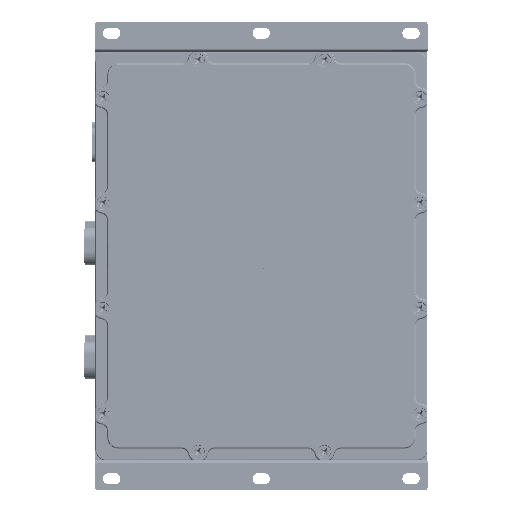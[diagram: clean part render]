
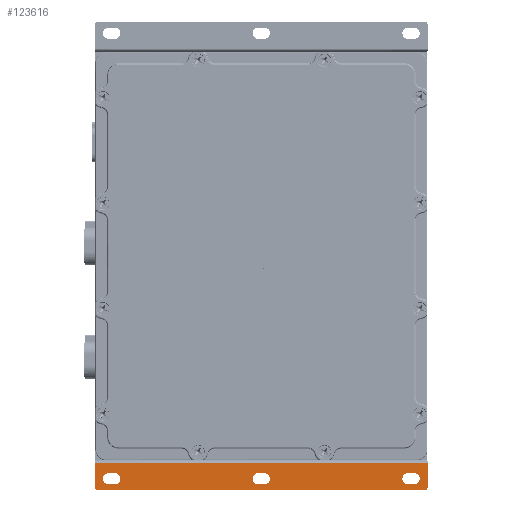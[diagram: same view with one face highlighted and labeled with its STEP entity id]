
A CAD part, front view. The second image highlights one B-rep face of the part: STEP entity #123616.
In plain terms, the highlighted planar face has unit normal (0, -1, 0).
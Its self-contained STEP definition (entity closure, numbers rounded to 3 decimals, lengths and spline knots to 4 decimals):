
#3134=ELLIPSE('',#136374,0.06,0.06);
#3139=ELLIPSE('',#136381,0.06,0.06);
#3288=FACE_BOUND('',#22727,.T.);
#3289=FACE_BOUND('',#22728,.T.);
#3290=FACE_BOUND('',#22729,.T.);
#8800=PLANE('',#136380);
#14818=FACE_OUTER_BOUND('',#22726,.T.);
#22726=EDGE_LOOP('',(#100651,#100652,#100653,#100654,#100655,#100656));
#22727=EDGE_LOOP('',(#100657,#100658,#100659,#100660));
#22728=EDGE_LOOP('',(#100661,#100662,#100663,#100664));
#22729=EDGE_LOOP('',(#100665,#100666,#100667,#100668));
#30551=LINE('',#237607,#38555);
#30555=LINE('',#237617,#38559);
#30567=LINE('',#237655,#38571);
#30571=LINE('',#237665,#38575);
#30583=LINE('',#237703,#38587);
#30587=LINE('',#237713,#38591);
#30598=LINE('',#237749,#38602);
#30609=LINE('',#237820,#38613);
#30610=LINE('',#237824,#38614);
#30611=LINE('',#237825,#38615);
#38555=VECTOR('',#164580,0.3937);
#38559=VECTOR('',#164592,0.3937);
#38571=VECTOR('',#164628,0.3937);
#38575=VECTOR('',#164640,0.3937);
#38587=VECTOR('',#164676,0.3937);
#38591=VECTOR('',#164688,0.3937);
#38602=VECTOR('',#164723,0.3937);
#38613=VECTOR('',#164744,0.3937);
#38614=VECTOR('',#164747,0.3937);
#38615=VECTOR('',#164748,0.3937);
#46047=CIRCLE('',#136326,0.135);
#46049=CIRCLE('',#136330,0.135);
#46055=CIRCLE('',#136342,0.135);
#46057=CIRCLE('',#136346,0.135);
#46063=CIRCLE('',#136358,0.135);
#46065=CIRCLE('',#136362,0.135);
#54915=VERTEX_POINT('',#237598);
#54916=VERTEX_POINT('',#237600);
#54918=VERTEX_POINT('',#237606);
#54920=VERTEX_POINT('',#237612);
#54931=VERTEX_POINT('',#237646);
#54932=VERTEX_POINT('',#237648);
#54934=VERTEX_POINT('',#237654);
#54936=VERTEX_POINT('',#237660);
#54947=VERTEX_POINT('',#237694);
#54948=VERTEX_POINT('',#237696);
#54950=VERTEX_POINT('',#237702);
#54952=VERTEX_POINT('',#237708);
#54963=VERTEX_POINT('',#237742);
#54964=VERTEX_POINT('',#237744);
#54965=VERTEX_POINT('',#237748);
#54980=VERTEX_POINT('',#237819);
#54981=VERTEX_POINT('',#237821);
#54982=VERTEX_POINT('',#237823);
#70811=EDGE_CURVE('',#54916,#54915,#46047,.T.);
#70814=EDGE_CURVE('',#54918,#54916,#30551,.T.);
#70817=EDGE_CURVE('',#54920,#54918,#46049,.T.);
#70820=EDGE_CURVE('',#54915,#54920,#30555,.T.);
#70835=EDGE_CURVE('',#54932,#54931,#46055,.T.);
#70838=EDGE_CURVE('',#54934,#54932,#30567,.T.);
#70841=EDGE_CURVE('',#54936,#54934,#46057,.T.);
#70844=EDGE_CURVE('',#54931,#54936,#30571,.T.);
#70859=EDGE_CURVE('',#54948,#54947,#46063,.T.);
#70862=EDGE_CURVE('',#54950,#54948,#30583,.T.);
#70865=EDGE_CURVE('',#54952,#54950,#46065,.T.);
#70868=EDGE_CURVE('',#54947,#54952,#30587,.T.);
#70883=EDGE_CURVE('',#54963,#54964,#3134,.T.);
#70885=EDGE_CURVE('',#54965,#54964,#30598,.T.);
#70904=EDGE_CURVE('',#54980,#54963,#30609,.T.);
#70905=EDGE_CURVE('',#54981,#54980,#3139,.T.);
#70906=EDGE_CURVE('',#54981,#54982,#30610,.T.);
#70907=EDGE_CURVE('',#54965,#54982,#30611,.T.);
#100651=ORIENTED_EDGE('',*,*,#70883,.F.);
#100652=ORIENTED_EDGE('',*,*,#70904,.F.);
#100653=ORIENTED_EDGE('',*,*,#70905,.F.);
#100654=ORIENTED_EDGE('',*,*,#70906,.T.);
#100655=ORIENTED_EDGE('',*,*,#70907,.F.);
#100656=ORIENTED_EDGE('',*,*,#70885,.T.);
#100657=ORIENTED_EDGE('',*,*,#70817,.T.);
#100658=ORIENTED_EDGE('',*,*,#70814,.T.);
#100659=ORIENTED_EDGE('',*,*,#70811,.T.);
#100660=ORIENTED_EDGE('',*,*,#70820,.T.);
#100661=ORIENTED_EDGE('',*,*,#70841,.T.);
#100662=ORIENTED_EDGE('',*,*,#70838,.T.);
#100663=ORIENTED_EDGE('',*,*,#70835,.T.);
#100664=ORIENTED_EDGE('',*,*,#70844,.T.);
#100665=ORIENTED_EDGE('',*,*,#70865,.T.);
#100666=ORIENTED_EDGE('',*,*,#70862,.T.);
#100667=ORIENTED_EDGE('',*,*,#70859,.T.);
#100668=ORIENTED_EDGE('',*,*,#70868,.T.);
#123616=ADVANCED_FACE('',(#14818,#3288,#3289,#3290),#8800,.F.);
#136326=AXIS2_PLACEMENT_3D('',#237601,#164574,#164575);
#136330=AXIS2_PLACEMENT_3D('',#237613,#164586,#164587);
#136342=AXIS2_PLACEMENT_3D('',#237649,#164622,#164623);
#136346=AXIS2_PLACEMENT_3D('',#237661,#164634,#164635);
#136358=AXIS2_PLACEMENT_3D('',#237697,#164670,#164671);
#136362=AXIS2_PLACEMENT_3D('',#237709,#164682,#164683);
#136374=AXIS2_PLACEMENT_3D('',#237745,#164718,#164719);
#136380=AXIS2_PLACEMENT_3D('',#237818,#164742,#164743);
#136381=AXIS2_PLACEMENT_3D('',#237822,#164745,#164746);
#164574=DIRECTION('center_axis',(0.,1.,0.));
#164575=DIRECTION('ref_axis',(0.,0.,-1.));
#164580=DIRECTION('',(1.,0.,0.));
#164586=DIRECTION('center_axis',(0.,1.,0.));
#164587=DIRECTION('ref_axis',(0.,0.,1.));
#164592=DIRECTION('',(-1.,0.,0.));
#164622=DIRECTION('center_axis',(0.,1.,0.));
#164623=DIRECTION('ref_axis',(0.,0.,-1.));
#164628=DIRECTION('',(1.,0.,0.));
#164634=DIRECTION('center_axis',(0.,1.,0.));
#164635=DIRECTION('ref_axis',(0.,0.,1.));
#164640=DIRECTION('',(-1.,0.,0.));
#164670=DIRECTION('center_axis',(0.,1.,0.));
#164671=DIRECTION('ref_axis',(0.,0.,-1.));
#164676=DIRECTION('',(1.,0.,0.));
#164682=DIRECTION('center_axis',(0.,1.,0.));
#164683=DIRECTION('ref_axis',(0.,0.,1.));
#164688=DIRECTION('',(-1.,0.,0.));
#164718=DIRECTION('center_axis',(0.,1.,0.));
#164719=DIRECTION('ref_axis',(-0.894,0.,-0.447));
#164723=DIRECTION('',(0.,0.,-1.));
#164742=DIRECTION('center_axis',(0.,1.,0.));
#164743=DIRECTION('ref_axis',(0.,0.,1.));
#164744=DIRECTION('',(-1.,0.,0.));
#164745=DIRECTION('center_axis',(0.,1.,0.));
#164746=DIRECTION('ref_axis',(0.894,0.,-0.447));
#164747=DIRECTION('',(0.,0.,1.));
#164748=DIRECTION('',(1.,0.,0.));
#237598=CARTESIAN_POINT('',(-3.48,-0.374,-5.4172));
#237600=CARTESIAN_POINT('',(-3.48,-0.374,-5.1472));
#237601=CARTESIAN_POINT('Origin',(-3.48,-0.374,-5.2822));
#237606=CARTESIAN_POINT('',(-3.62,-0.374,-5.1472));
#237607=CARTESIAN_POINT('',(-1.81,-0.374,-5.1472));
#237612=CARTESIAN_POINT('',(-3.62,-0.374,-5.4172));
#237613=CARTESIAN_POINT('Origin',(-3.62,-0.374,-5.2822));
#237617=CARTESIAN_POINT('',(-1.74,-0.374,-5.4172));
#237646=CARTESIAN_POINT('',(3.62,-0.374,-5.4172));
#237648=CARTESIAN_POINT('',(3.62,-0.374,-5.1472));
#237649=CARTESIAN_POINT('Origin',(3.62,-0.374,-5.2822));
#237654=CARTESIAN_POINT('',(3.48,-0.374,-5.1472));
#237655=CARTESIAN_POINT('',(1.74,-0.374,-5.1472));
#237660=CARTESIAN_POINT('',(3.48,-0.374,-5.4172));
#237661=CARTESIAN_POINT('Origin',(3.48,-0.374,-5.2822));
#237665=CARTESIAN_POINT('',(1.81,-0.374,-5.4172));
#237694=CARTESIAN_POINT('',(0.07,-0.374,-5.4172));
#237696=CARTESIAN_POINT('',(0.07,-0.374,-5.1472));
#237697=CARTESIAN_POINT('Origin',(0.07,-0.374,
-5.2822));
#237702=CARTESIAN_POINT('',(-0.07,-0.374,-5.1472));
#237703=CARTESIAN_POINT('',(-0.035,-0.374,-5.1472));
#237708=CARTESIAN_POINT('',(-0.07,-0.374,-5.4172));
#237709=CARTESIAN_POINT('Origin',(-0.07,-0.374,
-5.2822));
#237713=CARTESIAN_POINT('',(0.035,-0.374,-5.4172));
#237742=CARTESIAN_POINT('',(-3.8831,-0.374,-5.5486));
#237744=CARTESIAN_POINT('',(-3.9431,-0.374,-5.4886));
#237745=CARTESIAN_POINT('Origin',(-3.883,-0.374,
-5.4886));
#237748=CARTESIAN_POINT('',(-3.9431,-0.374,-4.9176));
#237749=CARTESIAN_POINT('',(-3.9431,-0.374,-2.7743));
#237818=CARTESIAN_POINT('Origin',(0.,-0.374,-5.5486));
#237819=CARTESIAN_POINT('',(3.8831,-0.374,-5.5486));
#237820=CARTESIAN_POINT('',(0.,-0.374,-5.5486));
#237821=CARTESIAN_POINT('',(3.9431,-0.374,-5.4886));
#237822=CARTESIAN_POINT('Origin',(3.883,-0.374,-5.4886));
#237823=CARTESIAN_POINT('',(3.9431,-0.374,-4.9176));
#237824=CARTESIAN_POINT('',(3.9431,-0.374,-2.7743));
#237825=CARTESIAN_POINT('',(0.,-0.374,-4.9176));
